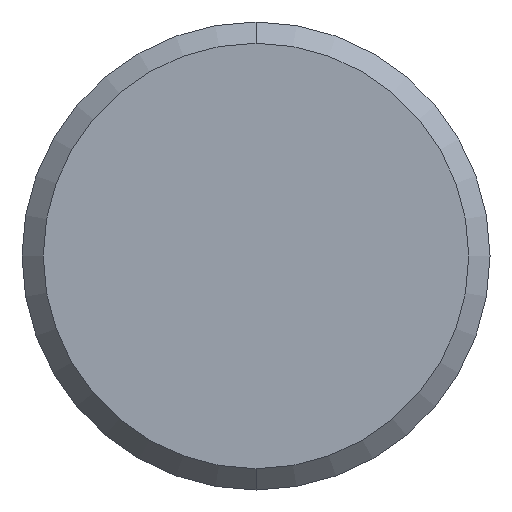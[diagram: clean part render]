
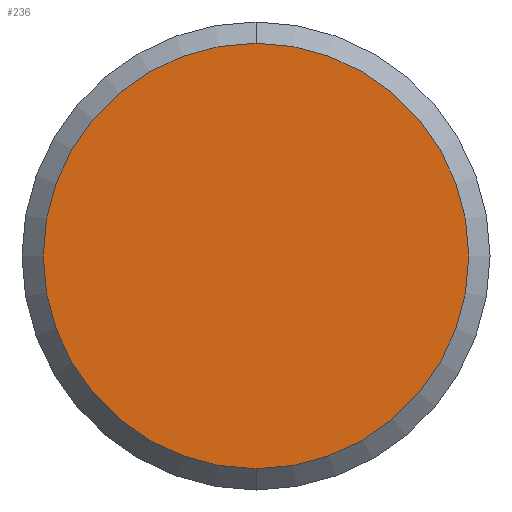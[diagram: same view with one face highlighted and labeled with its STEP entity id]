
A CAD part, front view. The second image highlights one B-rep face of the part: STEP entity #236.
In plain terms, the highlighted planar face has unit normal (0, -1, 0).
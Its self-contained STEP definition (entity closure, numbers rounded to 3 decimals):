
#31 = CIRCLE ( 'NONE', #456, 10. ) ;
#56 = CARTESIAN_POINT ( 'NONE',  ( 0., 0., 0. ) ) ;
#57 = DIRECTION ( 'NONE',  ( 0., 0., 1. ) ) ;
#86 = EDGE_CURVE ( 'NONE', #547, #995, #972, .T. ) ;
#143 = CARTESIAN_POINT ( 'NONE',  ( 0., 0., -10. ) ) ;
#167 = AXIS2_PLACEMENT_3D ( 'NONE', #1001, #535, #57 ) ;
#236 = ADVANCED_FACE ( 'NONE', ( #276 ), #916, .F. ) ;
#243 = CARTESIAN_POINT ( 'NONE',  ( 0., 0., 0. ) ) ;
#276 = FACE_OUTER_BOUND ( 'NONE', #311, .T. ) ;
#311 = EDGE_LOOP ( 'NONE', ( #560, #858 ) ) ;
#347 = EDGE_CURVE ( 'NONE', #995, #547, #31, .T. ) ;
#419 = DIRECTION ( 'NONE',  ( 0., 0., 1. ) ) ;
#456 = AXIS2_PLACEMENT_3D ( 'NONE', #56, #682, #763 ) ;
#492 = DIRECTION ( 'NONE',  ( 0., 1., 0. ) ) ;
#535 = DIRECTION ( 'NONE',  ( 0., 1., 0. ) ) ;
#547 = VERTEX_POINT ( 'NONE', #143 ) ;
#560 = ORIENTED_EDGE ( 'NONE', *, *, #86, .F. ) ;
#682 = DIRECTION ( 'NONE',  ( 0., 1., 0. ) ) ;
#708 = AXIS2_PLACEMENT_3D ( 'NONE', #243, #492, #419 ) ;
#763 = DIRECTION ( 'NONE',  ( 0., 0., 1. ) ) ;
#804 = CARTESIAN_POINT ( 'NONE',  ( 0., 0., 10. ) ) ;
#858 = ORIENTED_EDGE ( 'NONE', *, *, #347, .F. ) ;
#916 = PLANE ( 'NONE',  #167 ) ;
#972 = CIRCLE ( 'NONE', #708, 10. ) ;
#995 = VERTEX_POINT ( 'NONE', #804 ) ;
#1001 = CARTESIAN_POINT ( 'NONE',  ( 0., 0., 0. ) ) ;
